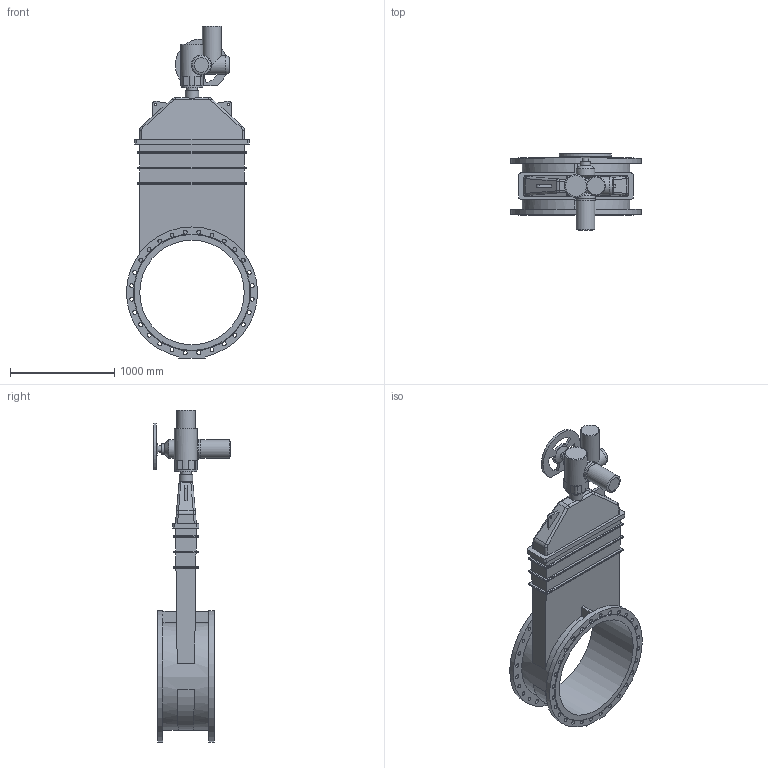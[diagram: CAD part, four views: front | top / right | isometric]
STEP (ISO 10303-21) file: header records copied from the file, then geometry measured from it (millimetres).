
FILE_DESCRIPTION(('STEP AP203'), '1');
FILE_NAME('青溻桄赅 47GVA DN1000 PN10+MT903.A100', '', ('UNSPECIFIED'), ('UNSPECIFIED'), 'ASCON STEP Converter 1.6', 'ASCON Math Kernel', '');
FILE_SCHEMA(('CONFIG_CONTROL_DESIGN'));
Length unit declared in the file: millimetre
Bounding box: 1254.88 x 733 x 3178.5 mm (x, y, z)
Volume: 371583734.6 mm3; surface area: 10701511.1 mm2
Topology: 2 solids, 2 shells, 345 faces, 859 edges, 548 vertices
Faces by surface type: cylinder 168, plane 133, bspline 32, cone 11, torus 1
Full cylindrical faces by diameter (mm): 17.5 x4, 22 x4, 25 x2, 37 x56, 50 x1, 60 x1, 100 x2, 130 x3, 140 x1, 180 x4, 187 x1, 191 x1, 210 x1, 220 x1, 1000 x1
Entity records: 16437 total; most frequent: CARTESIAN_POINT 5653, DIRECTION 1594, ORIENTED_EDGE 1528, EDGE_CURVE 764, AXIS2_PLACEMENT_3D 623, EDGE_LOOP 601, VERTEX_POINT 547, FACE_BOUND 423
